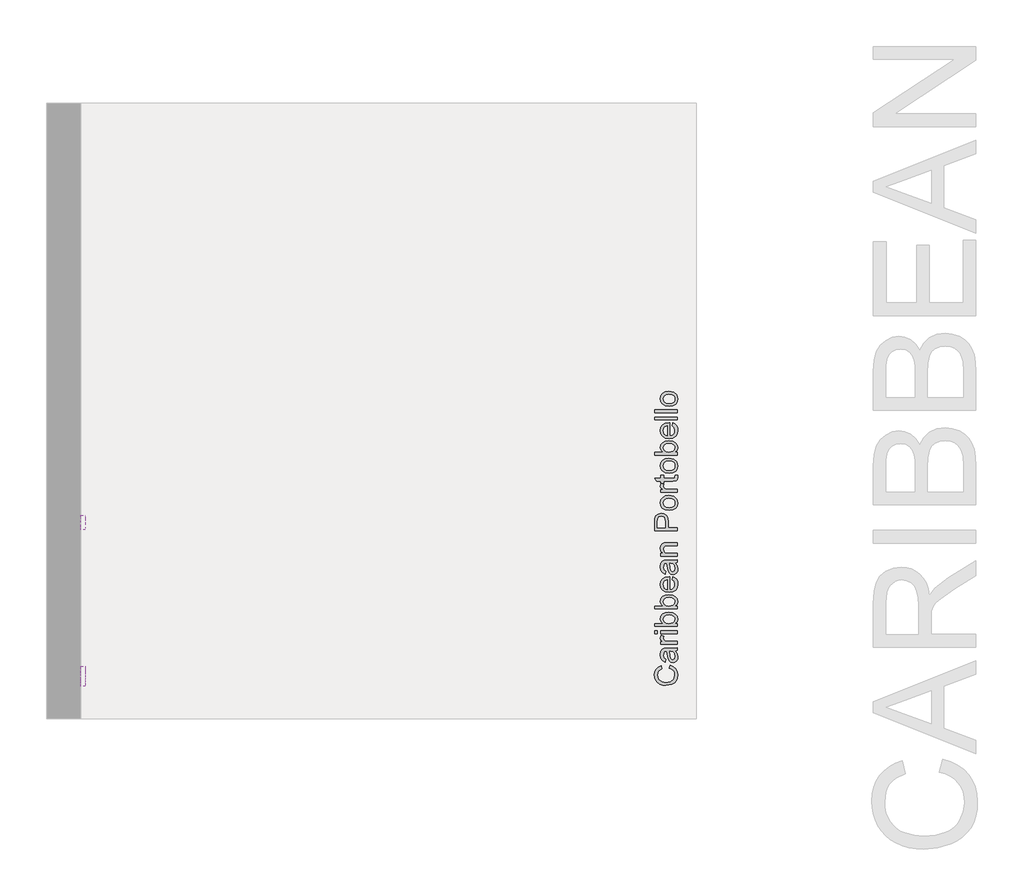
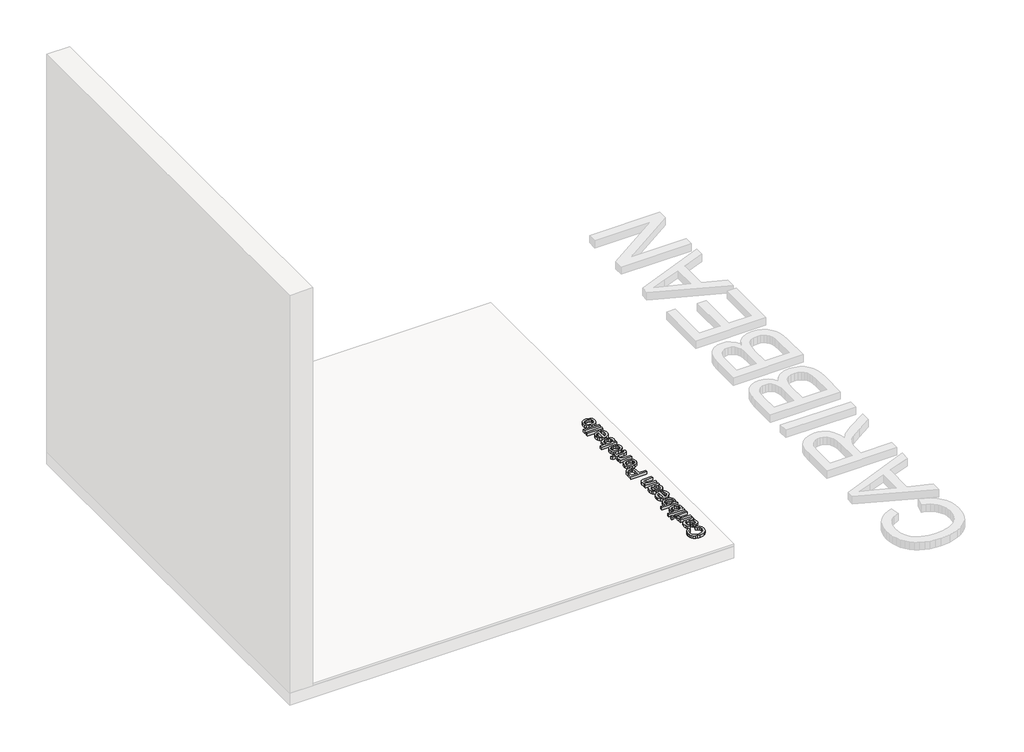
# One storey, part 3 of 7: 4 proxies.
"""IFC4 building model written with IfcOpenShell, lengths in millimetres."""

from ifc_helpers import new_model, si_unit, frame, origin, place, context, project, spatial, polyline, outline, extrude, element, save

model = new_model("IFC4")

# Units and contexts
model_context = context("Model", 3, world=origin())
ifc_project = project(units=[si_unit("LENGTHUNIT", "METRE", prefix="MILLI")], contexts=[model_context])

# Site, building, storey
site = spatial("IfcSite", under=ifc_project)
building = spatial("IfcBuilding", under=site)
storey = spatial("IfcBuildingStorey", under=building, Name="PORTOBELLO - SHOWROOM", Elevation=0.0)

# Proxies
placement = place(None, origin())
element("IfcBuildingElementProxy", 1, Name="10mm Arial", ObjectType="10mm Arial", at=placement, inside=storey, context=model_context, shape_type="SweptSolid", body=[
    extrude(outline(polyline([(-7214.6261231, 2513.9352439), (-7202.0690844, 2510.6978824), (-7207.8632258, 2496.065376), (-7216.9560424, 2485.3753384), (-7228.8999446, 2478.8362359), (-7243.2473424, 2476.6565351), (-7257.8124037, 2478.3058727), (-7269.3792268, 2483.2538855), (-7278.2451828, 2491.3288953), (-7284.7076432, 2502.3592238), (-7289.9683558, 2529.2146095), (-7288.4814994, 2543.8624442), (-7284.0209302, 2556.5114535), (-7276.8196401, 2566.7600328), (-7267.1106211, 2574.2065775), (-7255.5959147, 2578.7407231), (-7242.9775622, 2580.2521049), (-7229.2095786, 2578.296199), (-7217.8266965, 2572.4284812), (-7209.1845353, 2563.0107021), (-7203.6387142, 2550.4046124), (-7216.195753, 2547.4125055), (-7226.4964489, 2562.8512866), (-7243.4680716, 2567.6950662), (-7263.1129701, 2562.323989), (-7274.2107436, 2547.9030148), (-7277.411317, 2529.2391349), (-7273.6221324, 2507.6076736), (-7261.8253831, 2493.7875733), (-7244.4981412, 2489.2135739), (-7234.01657, 2490.770941), (-7225.2824383, 2495.4430423), (-7218.6881535, 2503.1808269), (-7214.6261231, 2513.9352439)])), frame((74564.1689403, 0.0, 0.0), z_axis=(1.0, 0.0, 0.0), x_axis=(0.0, 1.0, 0.0)), (0.0, 0.0, 1.0), 20.0),
    extrude(outline(polyline([(-7139.2838905, 2487.643944), (-7151.4607846, 2479.1336072), (-7164.9130029, 2476.6565351), (-7175.4068368, 2478.1464572), (-7183.1476871, 2482.6162234), (-7187.920956, 2489.4036462), (-7189.5120456, 2497.846538), (-7187.1085499, 2507.7793519), (-7180.7932423, 2514.989839), (-7172.0008626, 2519.1101173), (-7161.136081, 2520.9985782), (-7139.3574669, 2525.3150603), (-7139.2838905, 2528.1109635), (-7142.7419813, 2537.3815898), (-7156.6233952, 2541.0113588), (-7169.3275868, 2538.5956003), (-7175.385377, 2530.0239499), (-7187.9424158, 2531.5935797), (-7182.510025, 2543.8563129), (-7171.571667, 2551.0422745), (-7155.0047145, 2553.5683975), (-7139.7866626, 2551.3365801), (-7131.1904866, 2545.732511), (-7127.3399884, 2537.2099115), (-7126.7268518, 2526.2225026), (-7126.7268518, 2510.5997805), (-7126.0891896, 2488.7843782), (-7123.5875921, 2478.2261649), (-7136.1446308, 2478.2261649), (-7139.2838905, 2487.643944)]), holes=[polyline([(-7139.2838905, 2512.7580215), (-7159.5419257, 2508.9075233), (-7170.3453937, 2506.8719096), (-7175.2382242, 2503.5609717), (-7176.9550068, 2498.7294548), (-7173.2148732, 2491.9359006), (-7162.239727, 2489.2135739), (-7149.5355355, 2492.2179435), (-7141.3440297, 2499.4897443), (-7139.3574669, 2509.2018289), (-7139.2838905, 2512.7580215)])]), frame((74564.1689403, 0.0, 0.0), z_axis=(1.0, 0.0, 0.0), x_axis=(0.0, 1.0, 0.0)), (0.0, 0.0, 1.0), 20.0),
    extrude(outline(polyline([(-7109.4609235, 2478.2261649), (-7109.4609235, 2551.9987677), (-7098.4735145, 2551.9987677), (-7098.4735145, 2541.0849352), (-7090.6744162, 2551.1403764), (-7082.826267, 2553.5683975), (-7070.2201773, 2549.6933739), (-7074.414032, 2538.4361848), (-7083.2431999, 2541.0113588), (-7090.3433224, 2538.5342867), (-7094.868271, 2531.6671561), (-7096.9038847, 2517.0009272), (-7096.9038847, 2478.2261649), (-7109.4609235, 2478.2261649)])), frame((74564.1689403, 0.0, 0.0), z_axis=(1.0, 0.0, 0.0), x_axis=(0.0, 1.0, 0.0)), (0.0, 0.0, 1.0), 20.0),
    extrude(outline(polyline([(74584.1689403, -7049.8149893), (74584.1689403, -7062.3720281), (74564.1689403, -7062.3720281), (74564.1689403, -7049.8149893), (74584.1689403, -7049.8149893)])), frame((0.0, 0.0, 2478.2261649), z_axis=(0.0, 0.0, 1.0), x_axis=(1.0, 0.0, 0.0)), (0.0, 0.0, 1.0), 73.7726028),
    extrude(outline(polyline([(74584.1689403, -7049.8149893), (74584.1689403, -7062.3720281), (74564.1689403, -7062.3720281), (74564.1689403, -7049.8149893), (74584.1689403, -7049.8149893)])), frame((0.0, 0.0, 2566.1254363), z_axis=(0.0, 0.0, 1.0), x_axis=(1.0, 0.0, 0.0)), (0.0, 0.0, 1.0), 12.5570388),
    extrude(outline(polyline([(-7018.4223924, 2478.2261649), (-7030.9794312, 2478.2261649), (-7030.9794312, 2578.6824751), (-7018.4223924, 2578.6824751), (-7018.4223924, 2541.4282917), (-7009.6300127, 2550.5333711), (-6998.7039174, 2553.5683975), (-6986.1223532, 2550.833808), (-6976.3612176, 2543.1450743), (-6970.3647411, 2531.1889095), (-6968.1942373, 2516.2161123), (-6970.4413832, 2499.4529561), (-6977.1828207, 2486.9817564), (-6987.0757807, 2479.2378404), (-6998.7774938, 2476.6565351), (-7009.9427124, 2479.9858671), (-7018.4223924, 2489.9738633), (-7018.4223924, 2478.2261649)]), holes=[polyline([(-7018.4223924, 2515.6275011), (-7014.9888271, 2498.0672672), (-7008.4098707, 2491.4269972), (-6999.8566144, 2489.2135739), (-6992.6093391, 2490.8445174), (-6986.4166588, 2495.7373479), (-6982.1676218, 2503.8614086), (-6980.7512761, 2515.1860427), (-6982.1093738, 2526.6762237), (-6986.1836669, 2534.7083139), (-6992.1832091, 2539.4355976), (-6999.3170541, 2541.0113588), (-7006.5643294, 2539.3804153), (-7012.7570097, 2534.4875847), (-7017.0060467, 2526.5106768), (-7018.4223924, 2515.6275011)])]), frame((74564.1689403, 0.0, 0.0), z_axis=(1.0, 0.0, 0.0), x_axis=(0.0, 1.0, 0.0)), (0.0, 0.0, 1.0), 20.0),
    extrude(outline(polyline([(-6941.5105299, 2478.2261649), (-6954.0675687, 2478.2261649), (-6954.0675687, 2578.6824751), (-6941.5105299, 2578.6824751), (-6941.5105299, 2541.4282917), (-6932.7181502, 2550.5333711), (-6921.792055, 2553.5683975), (-6909.2104907, 2550.833808), (-6899.4493551, 2543.1450743), (-6893.4528786, 2531.1889095), (-6891.2823748, 2516.2161123), (-6893.5295207, 2499.4529561), (-6900.2709583, 2486.9817564), (-6910.1639183, 2479.2378404), (-6921.8656314, 2476.6565351), (-6933.0308499, 2479.9858671), (-6941.5105299, 2489.9738633), (-6941.5105299, 2478.2261649)]), holes=[polyline([(-6941.5105299, 2515.6275011), (-6938.0769646, 2498.0672672), (-6931.4980083, 2491.4269972), (-6922.9447519, 2489.2135739), (-6915.6974766, 2490.8445174), (-6909.5047963, 2495.7373479), (-6905.2557593, 2503.8614086), (-6903.8394136, 2515.1860427), (-6905.1975113, 2526.6762237), (-6909.2718044, 2534.7083139), (-6915.2713466, 2539.4355976), (-6922.4051916, 2541.0113588), (-6929.6524669, 2539.3804153), (-6935.8451472, 2534.4875847), (-6940.0941842, 2526.5106768), (-6941.5105299, 2515.6275011)])]), frame((74564.1689403, 0.0, 0.0), z_axis=(1.0, 0.0, 0.0), x_axis=(0.0, 1.0, 0.0)), (0.0, 0.0, 1.0), 20.0),
    extrude(outline(polyline([(-6825.5050741, 2500.2009828), (-6813.19329, 2498.6313529), (-6817.6293337, 2489.3545953), (-6824.7079965, 2482.4200197), (-6834.2698626, 2478.0974062), (-6846.1555168, 2476.6565351), (-6860.8891907, 2479.1428042), (-6872.2260875, 2486.6016117), (-6879.4549687, 2498.5485795), (-6881.8645958, 2514.4993297), (-6879.4304432, 2530.9865744), (-6872.1279856, 2543.3167526), (-6860.944373, 2551.0054863), (-6846.8667553, 2553.5683975), (-6833.2275303, 2551.0116177), (-6822.3290262, 2543.3412781), (-6815.1829185, 2531.0356253), (-6812.8008825, 2514.5729061), (-6812.8744589, 2511.1883917), (-6869.307557, 2511.1883917), (-6867.1339875, 2501.7890067), (-6862.0848072, 2494.8789566), (-6854.797678, 2490.6299195), (-6845.9102621, 2489.2135739), (-6833.598478, 2491.8377988), (-6825.5050741, 2500.2009828)]), holes=[polyline([(-6869.307557, 2523.7454305), (-6825.3579213, 2523.7454305), (-6830.3856419, 2535.1252469), (-6837.7064936, 2539.5398308), (-6846.9158062, 2541.0113588), (-6862.3791128, 2536.314732), (-6867.2443521, 2530.8240932), (-6869.307557, 2523.7454305)])]), frame((74564.1689403, 0.0, 0.0), z_axis=(1.0, 0.0, 0.0), x_axis=(0.0, 1.0, 0.0)), (0.0, 0.0, 1.0), 20.0),
    extrude(outline(polyline([(-6753.1549484, 2487.643944), (-6765.3318424, 2479.1336072), (-6778.7840607, 2476.6565351), (-6789.2778946, 2478.1464572), (-6797.018745, 2482.6162234), (-6801.7920138, 2489.4036462), (-6803.3831035, 2497.846538), (-6800.9796078, 2507.7793519), (-6794.6643002, 2514.989839), (-6785.8719205, 2519.1101173), (-6775.0071389, 2520.9985782), (-6753.2285248, 2525.3150603), (-6753.1549484, 2528.1109635), (-6756.6130391, 2537.3815898), (-6770.4944531, 2541.0113588), (-6783.1986447, 2538.5956003), (-6789.2564349, 2530.0239499), (-6801.8134736, 2531.5935797), (-6796.3810828, 2543.8563129), (-6785.4427248, 2551.0422745), (-6768.8757723, 2553.5683975), (-6753.6577205, 2551.3365801), (-6745.0615445, 2545.732511), (-6741.2110463, 2537.2099115), (-6740.5979096, 2526.2225026), (-6740.5979096, 2510.5997805), (-6739.9602475, 2488.7843782), (-6737.4586499, 2478.2261649), (-6750.0156887, 2478.2261649), (-6753.1549484, 2487.643944)]), holes=[polyline([(-6753.1549484, 2512.7580215), (-6773.4129836, 2508.9075233), (-6784.2164515, 2506.8719096), (-6789.1092821, 2503.5609717), (-6790.8260647, 2498.7294548), (-6787.0859311, 2491.9359006), (-6776.1107849, 2489.2135739), (-6763.4065933, 2492.2179435), (-6755.2150876, 2499.4897443), (-6753.2285248, 2509.2018289), (-6753.1549484, 2512.7580215)])]), frame((74564.1689403, 0.0, 0.0), z_axis=(1.0, 0.0, 0.0), x_axis=(0.0, 1.0, 0.0)), (0.0, 0.0, 1.0), 20.0),
    extrude(outline(polyline([(-6723.3319813, 2478.2261649), (-6723.3319813, 2551.9987677), (-6710.7749425, 2551.9987677), (-6710.7749425, 2541.6980718), (-6701.1732225, 2550.6008161), (-6688.0643607, 2553.5683975), (-6676.2062977, 2551.1771646), (-6668.1128938, 2544.8986452), (-6664.3482348, 2535.6648071), (-6663.6860472, 2523.5247013), (-6663.6860472, 2478.2261649), (-6676.2430859, 2478.2261649), (-6676.2430859, 2521.8324441), (-6677.6900884, 2532.9424803), (-6682.8036482, 2538.8163295), (-6691.4243496, 2541.0113588), (-6705.0482462, 2536.08174), (-6709.3432685, 2528.938698), (-6710.7749425, 2517.3688092), (-6710.7749425, 2478.2261649), (-6723.3319813, 2478.2261649)])), frame((74564.1689403, 0.0, 0.0), z_axis=(1.0, 0.0, 0.0), x_axis=(0.0, 1.0, 0.0)), (0.0, 0.0, 1.0), 20.0),
])
element("IfcBuildingElementProxy", 2, Name="10mm Arial", ObjectType="10mm Arial", at=placement, inside=storey, context=model_context, shape_type="SweptSolid", body=[
    extrude(outline(polyline([(77145.9885086, -7211.3340033), (77149.2258701, -7198.7769645), (77163.8583765, -7204.5711059), (77174.5484141, -7213.6639226), (77181.0875166, -7225.6078247), (77183.2672174, -7239.9552225), (77181.6178798, -7254.5202838), (77176.669867, -7266.0871069), (77168.5948572, -7274.953063), (77157.5645287, -7281.4155234), (77130.709143, -7286.6762359), (77116.0613083, -7285.1893795), (77103.412299, -7280.7288103), (77093.1637197, -7273.5275202), (77085.717175, -7263.8185013), (77081.1830294, -7252.3037948), (77079.6716476, -7239.6854424), (77081.6275535, -7225.9174587), (77087.4952713, -7214.5345766), (77096.9130504, -7205.8924154), (77109.5191401, -7200.3465944), (77112.511247, -7212.9036331), (77097.0724659, -7223.204329), (77092.2286863, -7240.1759517), (77097.5997635, -7259.8208502), (77112.0207377, -7270.9186238), (77130.6846176, -7274.1191971), (77152.3160789, -7270.3300126), (77166.1361792, -7258.5332633), (77170.7101786, -7241.2060213), (77169.1528115, -7230.7244501), (77164.4807102, -7221.9903184), (77156.7429256, -7215.3960336), (77145.9885086, -7211.3340033)])), frame((0.0, 0.0, 15.0), z_axis=(0.0, 0.0, 1.0), x_axis=(1.0, 0.0, 0.0)), (0.0, 0.0, 1.0), 20.0),
    extrude(outline(polyline([(77172.2798085, -7135.9917707), (77180.7901453, -7148.1686647), (77183.2672174, -7161.620883), (77181.7772953, -7172.1147169), (77177.3075291, -7179.8555672), (77170.5201063, -7184.6288361), (77162.0772145, -7186.2199257), (77152.1444006, -7183.81643), (77144.9339135, -7177.5011225), (77140.8136352, -7168.7087428), (77138.9251743, -7157.8439612), (77134.6086922, -7136.0653471), (77131.812789, -7135.9917707), (77122.5421627, -7139.4498614), (77118.9123937, -7153.3312754), (77121.3281522, -7166.0354669), (77129.8998026, -7172.0932571), (77128.3301728, -7184.6502959), (77116.0674396, -7179.2179051), (77108.881478, -7168.2795471), (77106.355355, -7151.7125946), (77108.5871724, -7136.4945427), (77114.1912414, -7127.8983668), (77122.713841, -7124.0478686), (77133.7012499, -7123.4347319), (77149.323972, -7123.4347319), (77171.1393743, -7122.7970698), (77181.6975876, -7120.2954722), (77181.6975876, -7132.852511), (77172.2798085, -7135.9917707)]), holes=[polyline([(77147.1657309, -7135.9917707), (77151.0162292, -7156.2498059), (77153.0518429, -7167.0532738), (77156.3627808, -7171.9461043), (77161.1942977, -7173.662887), (77167.9878519, -7169.9227534), (77170.7101786, -7158.9476072), (77167.705809, -7146.2434156), (77160.4340082, -7138.0519098), (77150.7219236, -7136.0653471), (77147.1657309, -7135.9917707)])]), frame((0.0, 0.0, 15.0), z_axis=(0.0, 0.0, 1.0), x_axis=(1.0, 0.0, 0.0)), (0.0, 0.0, 1.0), 20.0),
    extrude(outline(polyline([(77181.6975876, -7106.1688036), (77107.9249848, -7106.1688036), (77107.9249848, -7095.1813947), (77118.8388173, -7095.1813947), (77108.7833761, -7087.3822964), (77106.355355, -7079.5341471), (77110.2303786, -7066.9280574), (77121.4875677, -7071.1219122), (77118.9123937, -7079.9510801), (77121.3894658, -7087.0512026), (77128.2565964, -7091.5761511), (77142.9228253, -7093.6117648), (77181.6975876, -7093.6117648), (77181.6975876, -7106.1688036)])), frame((0.0, 0.0, 15.0), z_axis=(0.0, 0.0, 1.0), x_axis=(1.0, 0.0, 0.0)), (0.0, 0.0, 1.0), 20.0),
    extrude(outline(polyline([(77181.6975876, -7059.0799082), (77107.9249848, -7059.0799082), (77107.9249848, -7046.5228694), (77181.6975876, -7046.5228694), (77181.6975876, -7059.0799082)])), frame((0.0, 0.0, 15.0), z_axis=(0.0, 0.0, 1.0), x_axis=(1.0, 0.0, 0.0)), (0.0, 0.0, 1.0), 20.0),
    extrude(outline(polyline([(77093.7983162, -7059.0799082), (77081.2412774, -7059.0799082), (77081.2412774, -7046.5228694), (77093.7983162, -7046.5228694), (77093.7983162, -7059.0799082)])), frame((0.0, 0.0, 15.0), z_axis=(0.0, 0.0, 1.0), x_axis=(1.0, 0.0, 0.0)), (0.0, 0.0, 1.0), 20.0),
    extrude(outline(polyline([(77181.6975876, -7015.1302725), (77181.6975876, -7027.6873113), (77081.2412774, -7027.6873113), (77081.2412774, -7015.1302725), (77118.4954608, -7015.1302725), (77109.3903814, -7006.3378928), (77106.355355, -6995.4117976), (77109.0899444, -6982.8302333), (77116.7786781, -6973.0690977), (77128.734843, -6967.0726212), (77143.7076402, -6964.9021174), (77160.4707964, -6967.1492633), (77172.9419961, -6973.8907009), (77180.6859121, -6983.7836608), (77183.2672174, -6995.485374), (77179.9378854, -7006.6505925), (77169.9498892, -7015.1302725), (77181.6975876, -7015.1302725)]), holes=[polyline([(77144.2962514, -7015.1302725), (77161.8564853, -7011.6967072), (77168.4967553, -7005.1177509), (77170.7101786, -6996.5644945), (77169.0792351, -6989.3172192), (77164.1864046, -6983.1245389), (77156.0623439, -6978.8755019), (77144.7377098, -6977.4591562), (77133.2475288, -6978.8172539), (77125.2154386, -6982.891547), (77120.4881549, -6988.8910892), (77118.9123937, -6996.0249342), (77120.5433372, -7003.2722095), (77125.4361678, -7009.4648898), (77133.4130757, -7013.7139268), (77144.2962514, -7015.1302725)])]), frame((0.0, 0.0, 15.0), z_axis=(0.0, 0.0, 1.0), x_axis=(1.0, 0.0, 0.0)), (0.0, 0.0, 1.0), 20.0),
    extrude(outline(polyline([(77181.6975876, -6938.2184101), (77181.6975876, -6950.7754488), (77081.2412774, -6950.7754488), (77081.2412774, -6938.2184101), (77118.4954608, -6938.2184101), (77109.3903814, -6929.4260304), (77106.355355, -6918.4999351), (77109.0899444, -6905.9183709), (77116.7786781, -6896.1572353), (77128.734843, -6890.1607588), (77143.7076402, -6887.990255), (77160.4707964, -6890.2374008), (77172.9419961, -6896.9788384), (77180.6859121, -6906.8717984), (77183.2672174, -6918.5735115), (77179.9378854, -6929.7387301), (77169.9498892, -6938.2184101), (77181.6975876, -6938.2184101)]), holes=[polyline([(77144.2962514, -6938.2184101), (77161.8564853, -6934.7848448), (77168.4967553, -6928.2058884), (77170.7101786, -6919.652632), (77169.0792351, -6912.4053567), (77164.1864046, -6906.2126765), (77156.0623439, -6901.9636394), (77144.7377098, -6900.5472938), (77133.2475288, -6901.9053915), (77125.2154386, -6905.9796845), (77120.4881549, -6911.9792268), (77118.9123937, -6919.1130718), (77120.5433372, -6926.3603471), (77125.4361678, -6932.5530273), (77133.4130757, -6936.8020644), (77144.2962514, -6938.2184101)])]), frame((0.0, 0.0, 15.0), z_axis=(0.0, 0.0, 1.0), x_axis=(1.0, 0.0, 0.0)), (0.0, 0.0, 1.0), 20.0),
    extrude(outline(polyline([(77159.7227697, -6822.2129542), (77161.2923996, -6809.9011701), (77170.5691572, -6814.3372139), (77177.5037328, -6821.4158766), (77181.8263463, -6830.9777428), (77183.2672174, -6842.8633969), (77180.7809483, -6857.5970708), (77173.3221408, -6868.9339676), (77161.375173, -6876.1628488), (77145.4244228, -6878.5724759), (77128.9371781, -6876.1383234), (77116.6069999, -6868.8358658), (77108.9182662, -6857.6522531), (77106.355355, -6843.5746354), (77108.9121348, -6829.9354105), (77116.5824744, -6819.0369064), (77128.8881272, -6811.8907986), (77145.3508464, -6809.5087627), (77148.7353608, -6809.5823391), (77148.7353608, -6866.0154371), (77158.1347458, -6863.8418677), (77165.0447959, -6858.7926873), (77169.293833, -6851.5055581), (77170.7101786, -6842.6181422), (77168.0859537, -6830.3063581), (77159.7227697, -6822.2129542)]), holes=[polyline([(77136.178322, -6866.0154371), (77136.178322, -6822.0658014), (77124.7985056, -6827.093522), (77120.3839217, -6834.4143738), (77118.9123937, -6843.6236864), (77123.6090205, -6859.0869929), (77129.0996593, -6863.9522323), (77136.178322, -6866.0154371)])]), frame((0.0, 0.0, 15.0), z_axis=(0.0, 0.0, 1.0), x_axis=(1.0, 0.0, 0.0)), (0.0, 0.0, 1.0), 20.0),
    extrude(outline(polyline([(77172.2798085, -6749.8628285), (77180.7901453, -6762.0397226), (77183.2672174, -6775.4919409), (77181.7772953, -6785.9857748), (77177.3075291, -6793.7266251), (77170.5201063, -6798.499894), (77162.0772145, -6800.0909836), (77152.1444006, -6797.6874879), (77144.9339135, -6791.3721803), (77140.8136352, -6782.5798006), (77138.9251743, -6771.715019), (77134.6086922, -6749.9364049), (77131.812789, -6749.8628285), (77122.5421627, -6753.3209193), (77118.9123937, -6767.2023332), (77121.3281522, -6779.9065248), (77129.8998026, -6785.964315), (77128.3301728, -6798.5213538), (77116.0674396, -6793.088963), (77108.881478, -6782.150605), (77106.355355, -6765.5836525), (77108.5871724, -6750.3656006), (77114.1912414, -6741.7694246), (77122.713841, -6737.9189264), (77133.7012499, -6737.3057898), (77149.323972, -6737.3057898), (77171.1393743, -6736.6681276), (77181.6975876, -6734.1665301), (77181.6975876, -6746.7235688), (77172.2798085, -6749.8628285)]), holes=[polyline([(77147.1657309, -6749.8628285), (77151.0162292, -6770.1208637), (77153.0518429, -6780.9243317), (77156.3627808, -6785.8171622), (77161.1942977, -6787.5339448), (77167.9878519, -6783.7938112), (77170.7101786, -6772.818665), (77167.705809, -6760.1144735), (77160.4340082, -6751.9229677), (77150.7219236, -6749.9364049), (77147.1657309, -6749.8628285)])]), frame((0.0, 0.0, 15.0), z_axis=(0.0, 0.0, 1.0), x_axis=(1.0, 0.0, 0.0)), (0.0, 0.0, 1.0), 20.0),
    extrude(outline(polyline([(77181.6975876, -6720.0398615), (77107.9249848, -6720.0398615), (77107.9249848, -6707.4828227), (77118.2256807, -6707.4828227), (77109.3229364, -6697.8811026), (77106.355355, -6684.7722408), (77108.7465879, -6672.9141779), (77115.0251073, -6664.820774), (77124.2589454, -6661.0561149), (77136.3990512, -6660.3939273), (77181.6975876, -6660.3939273), (77181.6975876, -6672.9509661), (77138.0913084, -6672.9509661), (77126.9812721, -6674.3979686), (77121.107423, -6679.5115283), (77118.9123937, -6688.1322297), (77123.8420125, -6701.7561263), (77130.9850545, -6706.0511486), (77142.5549433, -6707.4828227), (77181.6975876, -6707.4828227), (77181.6975876, -6720.0398615)])), frame((0.0, 0.0, 15.0), z_axis=(0.0, 0.0, 1.0), x_axis=(1.0, 0.0, 0.0)), (0.0, 0.0, 1.0), 20.0),
])
element("IfcBuildingElementProxy", 3, Name="10mm Arial", ObjectType="10mm Arial", at=placement, inside=storey, context=model_context, shape_type="SweptSolid", body=[
    extrude(outline(polyline([(77181.6975876, -6606.9673464), (77081.2412774, -6606.9673464), (77081.2412774, -6569.7376884), (77082.1977706, -6554.728103), (77086.8943974, -6542.5266835), (77096.6064821, -6534.6172206), (77110.303955, -6531.6251137), (77122.1436239, -6533.645399), (77132.0089927, -6539.7062549), (77138.6676569, -6551.040086), (77140.8872116, -6568.8792971), (77140.8872116, -6594.4103076), (77181.6975876, -6594.4103076), (77181.6975876, -6606.9673464)]), holes=[polyline([(77128.3301728, -6594.4103076), (77128.3301728, -6568.1435331), (77123.7193851, -6549.6513315), (77118.1704984, -6545.5494473), (77110.7454134, -6544.1821525), (77100.3466157, -6547.4072513), (77094.6567075, -6555.8808), (77093.7983162, -6568.4378387), (77093.7983162, -6594.4103076), (77128.3301728, -6594.4103076)])]), frame((0.0, 0.0, 15.0), z_axis=(0.0, 0.0, 1.0), x_axis=(1.0, 0.0, 0.0)), (0.0, 0.0, 1.0), 20.0),
    extrude(outline(polyline([(77144.8112862, -6519.068075), (77127.0241917, -6516.3518796), (77114.5223352, -6508.2032934), (77108.3971, -6498.1355894), (77106.355355, -6486.0813227), (77108.8416241, -6472.8896875), (77116.3004316, -6462.352934), (77128.1431661, -6455.4459496), (77143.7812166, -6453.1436214), (77166.1239164, -6457.2148488), (77178.7667943, -6469.0729118), (77183.2672174, -6486.0813227), (77180.7901453, -6499.4323735), (77173.358929, -6509.9568642), (77161.2678741, -6516.7902723), (77144.8112862, -6519.068075)]), holes=[polyline([(77144.7867607, -6506.5110362), (77156.1512487, -6505.0579023), (77164.2477183, -6500.6985007), (77169.0945635, -6494.1379384), (77170.7101786, -6486.0813227), (77169.0853665, -6478.0614952), (77164.2109301, -6471.5131957), (77156.0071616, -6467.1537941), (77144.3943533, -6465.7006602), (77133.3609591, -6467.1629911), (77125.3748541, -6471.5499839), (77120.5280088, -6478.1074805), (77118.9123937, -6486.0813227), (77120.5218774, -6494.1379384), (77125.3503286, -6500.6985007), (77133.4284041, -6505.0579023), (77144.7867607, -6506.5110362)])]), frame((0.0, 0.0, 15.0), z_axis=(0.0, 0.0, 1.0), x_axis=(1.0, 0.0, 0.0)), (0.0, 0.0, 1.0), 20.0),
    extrude(outline(polyline([(77181.6975876, -6439.0169528), (77107.9249848, -6439.0169528), (77107.9249848, -6428.0295439), (77118.8388173, -6428.0295439), (77108.7833761, -6420.2304456), (77106.355355, -6412.3822964), (77110.2303786, -6399.7762067), (77121.4875677, -6403.9700614), (77118.9123937, -6412.7992293), (77121.3894658, -6419.8993518), (77128.2565964, -6424.4243003), (77142.9228253, -6426.4599141), (77181.6975876, -6426.4599141), (77181.6975876, -6439.0169528)])), frame((0.0, 0.0, 15.0), z_axis=(0.0, 0.0, 1.0), x_axis=(1.0, 0.0, 0.0)), (0.0, 0.0, 1.0), 20.0),
    extrude(outline(polyline([(77171.2252134, -6365.2443501), (77182.0654696, -6363.6747202), (77183.2672174, -6373.0679738), (77181.1825528, -6383.5893989), (77175.7133738, -6388.8378487), (77161.4640778, -6390.3584276), (77120.4820236, -6390.3584276), (77120.4820236, -6399.7762067), (77110.2303786, -6399.7762067), (77107.9249848, -6399.7762067), (77107.9249848, -6390.3584276), (77089.9968689, -6390.3584276), (77082.6147035, -6377.8013888), (77107.9249848, -6377.8013888), (77107.9249848, -6365.2443501), (77120.4820236, -6365.2443501), (77120.4820236, -6377.8013888), (77161.0961958, -6377.8013888), (77167.5709189, -6377.1392012), (77169.8640501, -6374.9932229), (77170.7101786, -6370.713529), (77171.2252134, -6365.2443501)])), frame((0.0, 0.0, 15.0), z_axis=(0.0, 0.0, 1.0), x_axis=(1.0, 0.0, 0.0)), (0.0, 0.0, 1.0), 20.0),
    extrude(outline(polyline([(77144.8112862, -6355.826571), (77127.0241917, -6353.1103756), (77114.5223352, -6344.9617894), (77108.3971, -6334.8940855), (77106.355355, -6322.8398187), (77108.8416241, -6309.6481835), (77116.3004316, -6299.1114301), (77128.1431661, -6292.2044456), (77143.7812166, -6289.9021174), (77166.1239164, -6293.9733449), (77178.7667943, -6305.8314078), (77183.2672174, -6322.8398187), (77180.7901453, -6336.1908695), (77173.358929, -6346.7153602), (77161.2678741, -6353.5487683), (77144.8112862, -6355.826571)]), holes=[polyline([(77144.7867607, -6343.2695322), (77156.1512487, -6341.8163983), (77164.2477183, -6337.4569967), (77169.0945635, -6330.8964344), (77170.7101786, -6322.8398187), (77169.0853665, -6314.8199912), (77164.2109301, -6308.2716917), (77156.0071616, -6303.9122901), (77144.3943533, -6302.4591562), (77133.3609591, -6303.9214871), (77125.3748541, -6308.3084799), (77120.5280088, -6314.8659765), (77118.9123937, -6322.8398187), (77120.5218774, -6330.8964344), (77125.3503286, -6337.4569967), (77133.4284041, -6341.8163983), (77144.7867607, -6343.2695322)])]), frame((0.0, 0.0, 15.0), z_axis=(0.0, 0.0, 1.0), x_axis=(1.0, 0.0, 0.0)), (0.0, 0.0, 1.0), 20.0),
    extrude(outline(polyline([(77181.6975876, -6263.2184101), (77181.6975876, -6275.7754488), (77081.2412774, -6275.7754488), (77081.2412774, -6263.2184101), (77118.4954608, -6263.2184101), (77109.3903814, -6254.4260304), (77106.355355, -6243.4999351), (77109.0899444, -6230.9183709), (77116.7786781, -6221.1572353), (77128.734843, -6215.1607588), (77143.7076402, -6212.990255), (77160.4707964, -6215.2374008), (77172.9419961, -6221.9788384), (77180.6859121, -6231.8717984), (77183.2672174, -6243.5735115), (77179.9378854, -6254.7387301), (77169.9498892, -6263.2184101), (77181.6975876, -6263.2184101)]), holes=[polyline([(77144.2962514, -6263.2184101), (77161.8564853, -6259.7848448), (77168.4967553, -6253.2058884), (77170.7101786, -6244.652632), (77169.0792351, -6237.4053567), (77164.1864046, -6231.2126765), (77156.0623439, -6226.9636394), (77144.7377098, -6225.5472938), (77133.2475288, -6226.9053915), (77125.2154386, -6230.9796845), (77120.4881549, -6236.9792268), (77118.9123937, -6244.1130718), (77120.5433372, -6251.3603471), (77125.4361678, -6257.5530273), (77133.4130757, -6261.8020644), (77144.2962514, -6263.2184101)])]), frame((0.0, 0.0, 15.0), z_axis=(0.0, 0.0, 1.0), x_axis=(1.0, 0.0, 0.0)), (0.0, 0.0, 1.0), 20.0),
    extrude(outline(polyline([(77159.7227697, -6147.2129542), (77161.2923996, -6134.9011701), (77170.5691572, -6139.3372139), (77177.5037328, -6146.4158766), (77181.8263463, -6155.9777428), (77183.2672174, -6167.8633969), (77180.7809483, -6182.5970708), (77173.3221408, -6193.9339676), (77161.375173, -6201.1628488), (77145.4244228, -6203.5724759), (77128.9371781, -6201.1383234), (77116.6069999, -6193.8358658), (77108.9182662, -6182.6522531), (77106.355355, -6168.5746354), (77108.9121348, -6154.9354105), (77116.5824744, -6144.0369064), (77128.8881272, -6136.8907986), (77145.3508464, -6134.5087627), (77148.7353608, -6134.5823391), (77148.7353608, -6191.0154371), (77158.1347458, -6188.8418677), (77165.0447959, -6183.7926873), (77169.293833, -6176.5055581), (77170.7101786, -6167.6181422), (77168.0859537, -6155.3063581), (77159.7227697, -6147.2129542)]), holes=[polyline([(77136.178322, -6191.0154371), (77136.178322, -6147.0658014), (77124.7985056, -6152.093522), (77120.3839217, -6159.4143738), (77118.9123937, -6168.6236864), (77123.6090205, -6184.0869929), (77129.0996593, -6188.9522323), (77136.178322, -6191.0154371)])]), frame((0.0, 0.0, 15.0), z_axis=(0.0, 0.0, 1.0), x_axis=(1.0, 0.0, 0.0)), (0.0, 0.0, 1.0), 20.0),
    extrude(outline(polyline([(77181.6975876, -6121.9517239), (77081.2412774, -6121.9517239), (77081.2412774, -6109.3946851), (77181.6975876, -6109.3946851), (77181.6975876, -6121.9517239)])), frame((0.0, 0.0, 15.0), z_axis=(0.0, 0.0, 1.0), x_axis=(1.0, 0.0, 0.0)), (0.0, 0.0, 1.0), 20.0),
    extrude(outline(polyline([(77181.6975876, -6090.559127), (77081.2412774, -6090.559127), (77081.2412774, -6078.0020882), (77181.6975876, -6078.0020882), (77181.6975876, -6090.559127)])), frame((0.0, 0.0, 15.0), z_axis=(0.0, 0.0, 1.0), x_axis=(1.0, 0.0, 0.0)), (0.0, 0.0, 1.0), 20.0),
    extrude(outline(polyline([(77144.8112862, -6062.3057898), (77127.0241917, -6059.5895944), (77114.5223352, -6051.4410082), (77108.3971, -6041.3733042), (77106.355355, -6029.3190375), (77108.8416241, -6016.1274023), (77116.3004316, -6005.5906488), (77128.1431661, -5998.6836644), (77143.7812166, -5996.3813362), (77166.1239164, -6000.4525636), (77178.7667943, -6012.3106266), (77183.2672174, -6029.3190375), (77180.7901453, -6042.6700883), (77173.358929, -6053.194579), (77161.2678741, -6060.0279871), (77144.8112862, -6062.3057898)]), holes=[polyline([(77144.7867607, -6049.748751), (77156.1512487, -6048.2956171), (77164.2477183, -6043.9362155), (77169.0945635, -6037.3756532), (77170.7101786, -6029.3190375), (77169.0853665, -6021.29921), (77164.2109301, -6014.7509105), (77156.0071616, -6010.3915089), (77144.3943533, -6008.938375), (77133.3609591, -6010.4007059), (77125.3748541, -6014.7876987), (77120.5280088, -6021.3451953), (77118.9123937, -6029.3190375), (77120.5218774, -6037.3756532), (77125.3503286, -6043.9362155), (77133.4284041, -6048.2956171), (77144.7867607, -6049.748751)])]), frame((0.0, 0.0, 15.0), z_axis=(0.0, 0.0, 1.0), x_axis=(1.0, 0.0, 0.0)), (0.0, 0.0, 1.0), 20.0),
])
element("IfcBuildingElementProxy", 4, Name="10mm Arial Narrow", ObjectType="10mm Arial Narrow", at=placement, inside=storey, context=model_context, shape_type="SweptSolid", body=[
    extrude(outline(polyline([(-6603.1244071, 2478.2261649), (-6603.1244071, 2578.9447687), (-6571.8275224, 2578.9447687), (-6555.5318209, 2577.066448), (-6544.0588348, 2567.5860048), (-6539.7691563, 2550.566896), (-6541.5554647, 2538.4910704), (-6546.91439, 2528.8646766), (-6556.6581788, 2522.5634182), (-6571.599078, 2520.4629988), (-6593.3774454, 2520.4629988), (-6593.3774454, 2478.2261649), (-6603.1244071, 2478.2261649)]), holes=[polyline([(-6593.3774454, 2531.834454), (-6570.4060905, 2531.834454), (-6554.5418951, 2536.3652682), (-6549.516118, 2550.033859), (-6551.9909325, 2560.1996354), (-6557.9685613, 2565.9995852), (-6570.6345349, 2567.5733134), (-6593.3774454, 2567.5733134), (-6593.3774454, 2531.834454)])]), frame((74564.1689403, 0.0, 0.0), z_axis=(1.0, 0.0, 0.0), x_axis=(0.0, 1.0, 0.0)), (0.0, 0.0, 1.0), 20.0),
    extrude(outline(polyline([(-6531.6466883, 2514.7772711), (-6529.6922194, 2531.3680467), (-6523.8288128, 2543.3201315), (-6514.9702461, 2550.5446861), (-6504.030297, 2552.9528709), (-6493.2172614, 2550.5446861), (-6484.3333119, 2543.3201315), (-6478.3937572, 2531.558417), (-6476.4139056, 2515.5387525), (-6478.358856, 2498.3768659), (-6484.193707, 2486.2344108), (-6493.0427552, 2479.0098562), (-6504.030297, 2476.6016713), (-6514.8909251, 2479.0162019), (-6523.765356, 2486.2597935), (-6529.6763552, 2498.218224), (-6531.6466883, 2514.7772711)]), holes=[polyline([(-6521.8997266, 2514.8026538), (-6520.5956898, 2502.2509024), (-6516.6835792, 2493.3796444), (-6510.8423825, 2488.1063858), (-6503.7510871, 2486.348633), (-6497.0310139, 2488.12225), (-6491.3389406, 2493.4431012), (-6487.4553856, 2502.3302234), (-6486.1608673, 2514.8026538), (-6487.4649041, 2527.3163312), (-6491.3770147, 2536.1748979), (-6497.2182114, 2541.4481564), (-6504.3095068, 2543.2059093), (-6511.0771725, 2541.4386379), (-6516.7597273, 2536.1368238), (-6520.6147268, 2527.2687386), (-6521.8997266, 2514.8026538)])]), frame((74564.1689403, 0.0, 0.0), z_axis=(1.0, 0.0, 0.0), x_axis=(0.0, 1.0, 0.0)), (0.0, 0.0, 1.0), 20.0),
    extrude(outline(polyline([(-6404.9361868, 2486.348633), (-6403.3116932, 2476.6016713), (-6410.6726799, 2476.6016713), (-6418.9474442, 2478.7211278), (-6423.2625053, 2484.5210777), (-6424.4301101, 2499.1669029), (-6424.4301101, 2541.5814157), (-6432.5525782, 2541.5814157), (-6432.5525782, 2544.8304029), (-6434.1770718, 2539.9569221), (-6441.7411201, 2541.5814157), (-6447.8202798, 2539.2588975), (-6451.6911435, 2532.7736144), (-6453.6709951, 2517.3663078), (-6453.6709951, 2478.2261649), (-6463.4179567, 2478.2261649), (-6463.4179567, 2551.3283773), (-6453.6709951, 2551.3283773), (-6453.6709951, 2541.6321811), (-6447.4268478, 2550.7191922), (-6441.0304042, 2552.9528709), (-6432.5525782, 2551.3283773), (-6424.4301101, 2551.3283773), (-6424.4301101, 2567.5733134), (-6414.6831485, 2575.6957815), (-6414.6831485, 2551.3283773), (-6404.9361868, 2551.3283773), (-6404.9361868, 2541.5814157), (-6414.6831485, 2541.5814157), (-6414.6831485, 2496.9332241), (-6413.8201362, 2488.9376697), (-6409.2004825, 2486.348633), (-6404.9361868, 2486.348633)])), frame((74564.1689403, 0.0, 0.0), z_axis=(1.0, 0.0, 0.0), x_axis=(0.0, 1.0, 0.0)), (0.0, 0.0, 1.0), 20.0),
    extrude(outline(polyline([(-6398.4382124, 2514.7772711), (-6396.4837435, 2531.3680467), (-6390.6203369, 2543.3201315), (-6381.7617702, 2550.5446861), (-6370.821821, 2552.9528709), (-6360.0087854, 2550.5446861), (-6351.124836, 2543.3201315), (-6345.1852813, 2531.558417), (-6343.2054297, 2515.5387525), (-6345.15038, 2498.3768659), (-6350.9852311, 2486.2344108), (-6359.8342793, 2479.0098562), (-6370.821821, 2476.6016713), (-6381.6824492, 2479.0162019), (-6390.5568801, 2486.2597935), (-6396.4678793, 2498.218224), (-6398.4382124, 2514.7772711)]), holes=[polyline([(-6388.6912507, 2514.8026538), (-6387.3872139, 2502.2509024), (-6383.4751033, 2493.3796444), (-6377.6339065, 2488.1063858), (-6370.5426112, 2486.348633), (-6363.822538, 2488.12225), (-6358.1304647, 2493.4431012), (-6354.2469097, 2502.3302234), (-6352.9523913, 2514.8026538), (-6354.2564282, 2527.3163312), (-6358.1685388, 2536.1748979), (-6364.0097355, 2541.4481564), (-6371.1010309, 2543.2059093), (-6377.8686966, 2541.4386379), (-6383.5512514, 2536.1368238), (-6387.4062509, 2527.2687386), (-6388.6912507, 2514.8026538)])]), frame((74564.1689403, 0.0, 0.0), z_axis=(1.0, 0.0, 0.0), x_axis=(0.0, 1.0, 0.0)), (0.0, 0.0, 1.0), 20.0),
    extrude(outline(polyline([(-6320.4625191, 2478.2261649), (-6330.2094808, 2478.2261649), (-6330.2094808, 2578.9447687), (-6320.4625191, 2578.9447687), (-6320.4625191, 2543.5358846), (-6313.0634584, 2550.6176614), (-6303.8622251, 2552.9528709), (-6290.9804984, 2548.752032), (-6281.7031169, 2536.0226016), (-6278.2256853, 2515.3356908), (-6280.1579443, 2498.8813473), (-6285.9547213, 2486.6786082), (-6294.3278436, 2479.1209056), (-6303.9891386, 2476.6016713), (-6313.3299769, 2479.2160907), (-6320.4625191, 2486.9832008), (-6320.4625191, 2478.2261649)]), holes=[polyline([(-6320.4625191, 2515.3356908), (-6318.3811367, 2498.0881376), (-6312.4923474, 2489.3564844), (-6304.0399041, 2486.348633), (-6298.0971765, 2488.1381142), (-6292.8588191, 2493.5065579), (-6287.972647, 2514.9295674), (-6292.6811402, 2536.3652682), (-6297.9258432, 2541.495749), (-6304.2429658, 2543.2059093), (-6310.2205946, 2541.416428), (-6315.5128902, 2536.0479843), (-6320.4625191, 2515.3356908)])]), frame((74564.1689403, 0.0, 0.0), z_axis=(1.0, 0.0, 0.0), x_axis=(0.0, 1.0, 0.0)), (0.0, 0.0, 1.0), 20.0),
    extrude(outline(polyline([(-6226.2418898, 2500.9690755), (-6216.4949282, 2499.3445818), (-6220.1944585, 2489.4580153), (-6226.0134454, 2482.3381644), (-6233.7170987, 2478.0357946), (-6243.0706283, 2476.6016713), (-6254.6641823, 2479.0162019), (-6263.8083045, 2486.2597935), (-6269.7478593, 2498.0659277), (-6271.7277109, 2514.168086), (-6269.7383408, 2530.8350097), (-6263.7702305, 2543.0155389), (-6254.7561946, 2550.4685379), (-6243.629048, 2552.9528709), (-6232.9460988, 2550.5542046), (-6224.1985815, 2543.3582056), (-6218.3637304, 2531.618701), (-6216.41878, 2515.5895179), (-6216.4949282, 2512.3405307), (-6261.9807492, 2512.3405307), (-6255.9777377, 2492.8973728), (-6250.0477014, 2487.9858179), (-6242.9437147, 2486.348633), (-6232.765247, 2490.0037436), (-6226.2418898, 2500.9690755)]), holes=[polyline([(-6261.3207987, 2522.0874924), (-6226.2418898, 2522.0874924), (-6230.5061855, 2536.3525769), (-6236.3315181, 2541.4925762), (-6243.5528998, 2543.2059093), (-6255.7619846, 2537.4947989), (-6261.3207987, 2522.0874924)])]), frame((74564.1689403, 0.0, 0.0), z_axis=(1.0, 0.0, 0.0), x_axis=(0.0, 1.0, 0.0)), (0.0, 0.0, 1.0), 20.0),
    extrude(outline(polyline([(74584.1689403, -6193.7520176), (74584.1689403, -6203.4989793), (74564.1689403, -6203.4989793), (74564.1689403, -6193.7520176), (74584.1689403, -6193.7520176)])), frame((0.0, 0.0, 2478.2261649), z_axis=(0.0, 0.0, 1.0), x_axis=(1.0, 0.0, 0.0)), (0.0, 0.0, 1.0), 100.7186038),
    extrude(outline(polyline([(74584.1689403, -6167.7601199), (74584.1689403, -6177.5070816), (74564.1689403, -6177.5070816), (74564.1689403, -6167.7601199), (74584.1689403, -6167.7601199)])), frame((0.0, 0.0, 2478.2261649), z_axis=(0.0, 0.0, 1.0), x_axis=(1.0, 0.0, 0.0)), (0.0, 0.0, 1.0), 100.7186038),
    extrude(outline(polyline([(-6156.3886646, 2514.7772711), (-6154.4341958, 2531.3680467), (-6148.5707891, 2543.3201315), (-6139.7122224, 2550.5446861), (-6128.7722733, 2552.9528709), (-6117.9592377, 2550.5446861), (-6109.0752883, 2543.3201315), (-6103.1357335, 2531.558417), (-6101.1558819, 2515.5387525), (-6103.1008323, 2498.3768659), (-6108.9356834, 2486.2344108), (-6117.7847316, 2479.0098562), (-6128.7722733, 2476.6016713), (-6139.6329015, 2479.0162019), (-6148.5073324, 2486.2597935), (-6154.4183316, 2498.218224), (-6156.3886646, 2514.7772711)]), holes=[polyline([(-6146.641703, 2514.8026538), (-6145.3376661, 2502.2509024), (-6141.4255555, 2493.3796444), (-6135.5843588, 2488.1063858), (-6128.4930635, 2486.348633), (-6121.7729903, 2488.12225), (-6116.080917, 2493.4431012), (-6112.1973619, 2502.3302234), (-6110.9028436, 2514.8026538), (-6112.2068805, 2527.3163312), (-6116.118991, 2536.1748979), (-6121.9601878, 2541.4481564), (-6129.0514831, 2543.2059093), (-6135.8191489, 2541.4386379), (-6141.5017037, 2536.1368238), (-6145.3567032, 2527.2687386), (-6146.641703, 2514.8026538)])]), frame((74564.1689403, 0.0, 0.0), z_axis=(1.0, 0.0, 0.0), x_axis=(0.0, 1.0, 0.0)), (0.0, 0.0, 1.0), 20.0),
])

save(model, "model.ifc")
